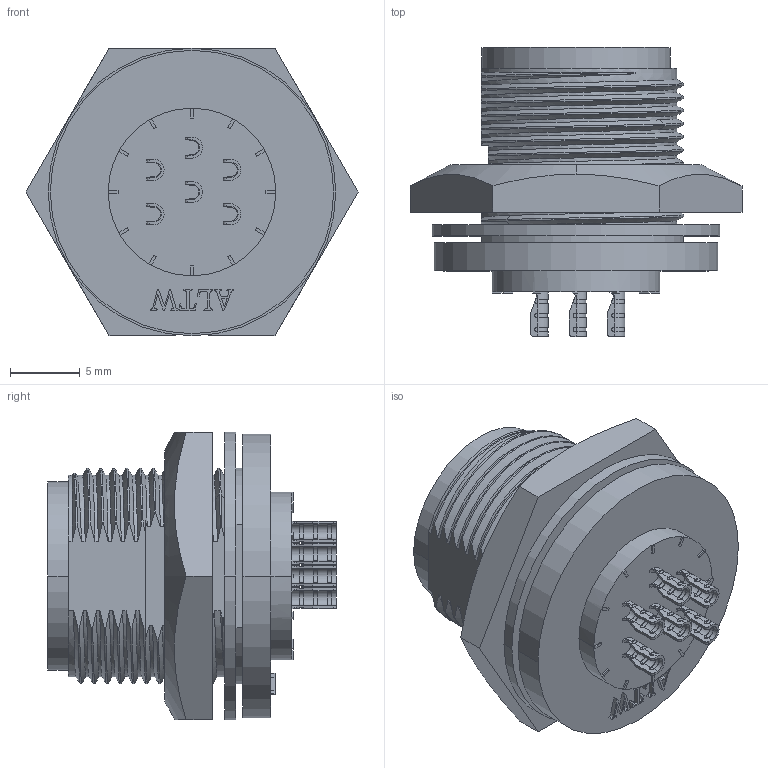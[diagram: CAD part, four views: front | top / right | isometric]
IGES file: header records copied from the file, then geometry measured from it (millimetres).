
Start section:  PTC IGES file: ABD-06PMMS-SC7001.igs
Global section: file name: ABD-06PMMS-SC7001.igs; native system: Creo Parametric by Parametric Technology Corporation; preprocessor: 2013050; author: KS7307; organization: Unknown; date: 20160612.095344; units: millimetre
Bounding box: 23.79 x 20.7 x 20.6 mm (x, y, z)
Volume: 2992 mm3; surface area: 3435.5 mm2
Topology: 1 solids, 1 shells, 1017 faces, 3080 edges, 2018 vertices
Faces by surface type: bspline 547, revolution 414, extrusion 56
